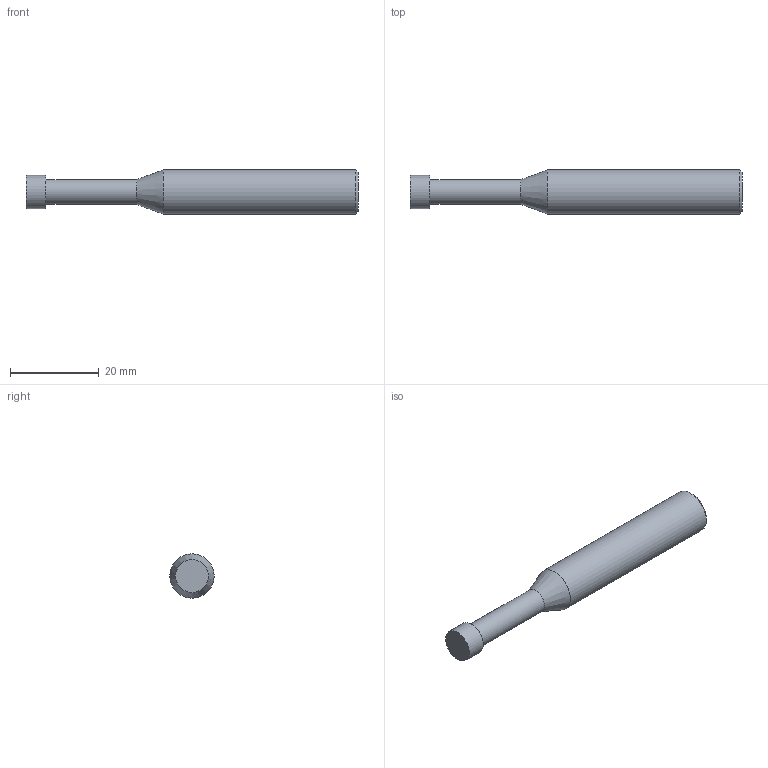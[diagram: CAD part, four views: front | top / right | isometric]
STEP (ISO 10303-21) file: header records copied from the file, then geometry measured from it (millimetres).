
FILE_DESCRIPTION(/* description */ (''),/* implementation_level */ '2;1');
FILE_NAME(/* name */ 'HSXDT-1.5-25 1075.stp',/* time_stamp */ '2026-02-24T09:12:27+08:00',/* author */ (''),/* organization */ (''),/* preprocessor_version */ 'ST-DEVELOPER v16',/* originating_system */ 'SIEMENS PLM Software NX 10.0',/* authorisation */ '');
FILE_SCHEMA (('CONFIG_CONTROL_DESIGN'));
Length unit declared in the file: millimetre
Products named in the file (1): HSXDT-1.5-25 1075_dxf
Bounding box: 75 x 10 x 10 mm (x, y, z)
Volume: 4448.7 mm3; surface area: 2187.2 mm2
Topology: 2 solids, 2 shells, 9 faces, 12 edges, 7 vertices
Faces by surface type: plane 4, cylinder 3, cone 2
Full cylindrical faces by diameter (mm): 5.6 x1, 7.5 x1, 10 x1
Entity records: 246 total; most frequent: DIRECTION 34, CARTESIAN_POINT 24, AXIS2_PLACEMENT_3D 17, EDGE_LOOP 14, ORIENTED_EDGE 14, FACE_BOUND 10, ADVANCED_FACE 9, PERSON_AND_ORGANIZATION 7
